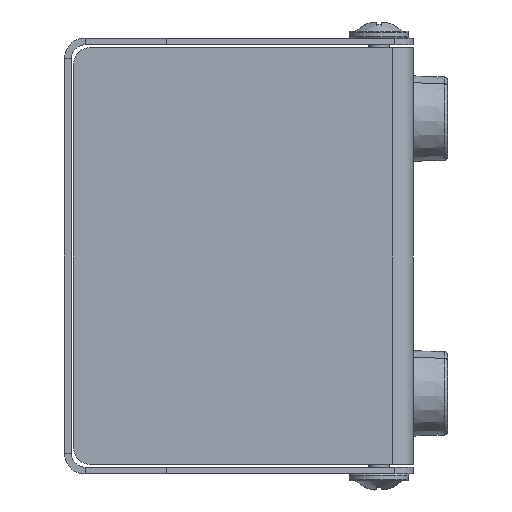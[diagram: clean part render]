
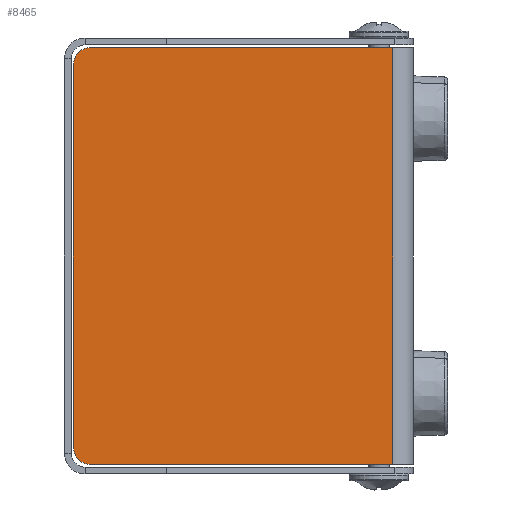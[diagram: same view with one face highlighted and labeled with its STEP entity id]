
A CAD part, left-side view. The second image highlights one B-rep face of the part: STEP entity #8465.
In plain terms, the highlighted planar face has unit normal (-1, 0, 0).
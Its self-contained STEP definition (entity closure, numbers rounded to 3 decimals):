
#46 = EDGE_CURVE ( 'NONE', #8866, #6697, #6302, .T. ) ;
#100 = DIRECTION ( 'NONE',  ( 0., -1., 0. ) ) ;
#128 = DIRECTION ( 'NONE',  ( 0., -1., 0. ) ) ;
#139 = EDGE_CURVE ( 'NONE', #4068, #6697, #6491, .T. ) ;
#267 = DIRECTION ( 'NONE',  ( 0., -1., 0. ) ) ;
#307 = ORIENTED_EDGE ( 'NONE', *, *, #139, .F. ) ;
#648 = CIRCLE ( 'NONE', #7190, 2.5 ) ;
#948 = CARTESIAN_POINT ( 'NONE',  ( -59.6, 24.75, -60.7 ) ) ;
#1133 = CARTESIAN_POINT ( 'NONE',  ( -59.6, 22.25, -2.5 ) ) ;
#1205 = CARTESIAN_POINT ( 'NONE',  ( -59.6, 22.25, -60.7 ) ) ;
#1467 = EDGE_CURVE ( 'NONE', #2710, #1564, #648, .T. ) ;
#1509 = CARTESIAN_POINT ( 'NONE',  ( -59.6, 24.75, -60.7 ) ) ;
#1525 = EDGE_LOOP ( 'NONE', ( #307, #6053, #1589, #4515, #7390, #5391 ) ) ;
#1535 = VECTOR ( 'NONE', #5219, 1000. ) ;
#1564 = VERTEX_POINT ( 'NONE', #1205 ) ;
#1589 = ORIENTED_EDGE ( 'NONE', *, *, #6381, .F. ) ;
#1653 = EDGE_CURVE ( 'NONE', #1564, #8866, #4359, .T. ) ;
#1881 = AXIS2_PLACEMENT_3D ( 'NONE', #1133, #7956, #4465 ) ;
#2130 = CARTESIAN_POINT ( 'NONE',  ( -59.6, 24.75, -58.2 ) ) ;
#2710 = VERTEX_POINT ( 'NONE', #2130 ) ;
#2828 = CARTESIAN_POINT ( 'NONE',  ( -59.6, 24.75, -2.5 ) ) ;
#2879 = FACE_OUTER_BOUND ( 'NONE', #1525, .T. ) ;
#2930 = DIRECTION ( 'NONE',  ( -1., 0., 0. ) ) ;
#3776 = EDGE_CURVE ( 'NONE', #4068, #5698, #6539, .T. ) ;
#3804 = CARTESIAN_POINT ( 'NONE',  ( -59.6, -21.75, 0. ) ) ;
#4068 = VERTEX_POINT ( 'NONE', #7034 ) ;
#4359 = LINE ( 'NONE', #5034, #4731 ) ;
#4408 = DIRECTION ( 'NONE',  ( -1., 0., 0. ) ) ;
#4465 = DIRECTION ( 'NONE',  ( 0., -1., 0. ) ) ;
#4515 = ORIENTED_EDGE ( 'NONE', *, *, #1467, .T. ) ;
#4731 = VECTOR ( 'NONE', #128, 1000. ) ;
#5034 = CARTESIAN_POINT ( 'NONE',  ( -59.6, 24.75, -60.7 ) ) ;
#5219 = DIRECTION ( 'NONE',  ( 0., -1., 0. ) ) ;
#5391 = ORIENTED_EDGE ( 'NONE', *, *, #46, .T. ) ;
#5585 = DIRECTION ( 'NONE',  ( 0., 0., 1. ) ) ;
#5698 = VERTEX_POINT ( 'NONE', #2828 ) ;
#5727 = CARTESIAN_POINT ( 'NONE',  ( -59.6, 24.75, 0. ) ) ;
#6053 = ORIENTED_EDGE ( 'NONE', *, *, #3776, .T. ) ;
#6302 = LINE ( 'NONE', #8265, #6324 ) ;
#6324 = VECTOR ( 'NONE', #5585, 1000. ) ;
#6381 = EDGE_CURVE ( 'NONE', #2710, #5698, #7856, .T. ) ;
#6483 = AXIS2_PLACEMENT_3D ( 'NONE', #1509, #2930, #100 ) ;
#6491 = LINE ( 'NONE', #5727, #1535 ) ;
#6495 = DIRECTION ( 'NONE',  ( 0., 0., 1. ) ) ;
#6539 = CIRCLE ( 'NONE', #1881, 2.5 ) ;
#6617 = VECTOR ( 'NONE', #6495, 1000. ) ;
#6697 = VERTEX_POINT ( 'NONE', #3804 ) ;
#6861 = PLANE ( 'NONE',  #6483 ) ;
#6943 = CARTESIAN_POINT ( 'NONE',  ( -59.6, -21.75, -60.7 ) ) ;
#7034 = CARTESIAN_POINT ( 'NONE',  ( -59.6, 22.25, 0. ) ) ;
#7190 = AXIS2_PLACEMENT_3D ( 'NONE', #8722, #4408, #267 ) ;
#7390 = ORIENTED_EDGE ( 'NONE', *, *, #1653, .T. ) ;
#7856 = LINE ( 'NONE', #948, #6617 ) ;
#7956 = DIRECTION ( 'NONE',  ( -1., 0., 0. ) ) ;
#8265 = CARTESIAN_POINT ( 'NONE',  ( -59.6, -21.75, -60.7 ) ) ;
#8465 = ADVANCED_FACE ( 'NONE', ( #2879 ), #6861, .T. ) ;
#8722 = CARTESIAN_POINT ( 'NONE',  ( -59.6, 22.25, -58.2 ) ) ;
#8866 = VERTEX_POINT ( 'NONE', #6943 ) ;
